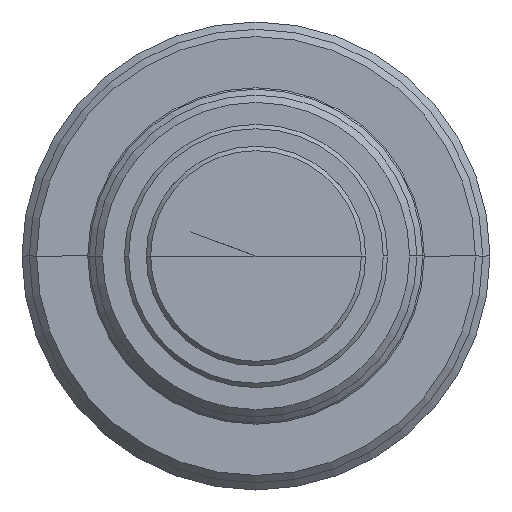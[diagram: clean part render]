
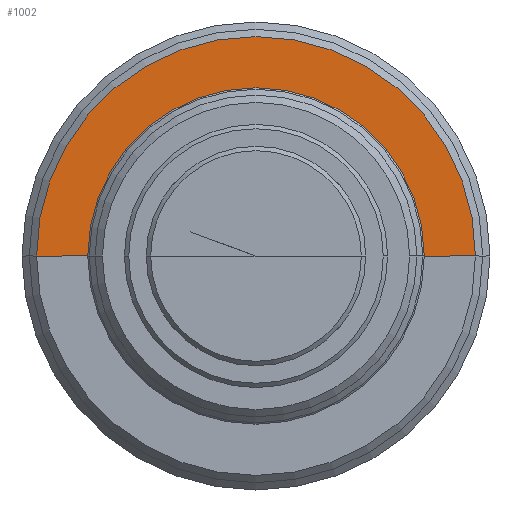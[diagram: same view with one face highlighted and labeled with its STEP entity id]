
A CAD part, left-side view. The second image highlights one B-rep face of the part: STEP entity #1002.
In plain terms, the highlighted conical face has half-angle 90 degrees and reference radius 15 mm.
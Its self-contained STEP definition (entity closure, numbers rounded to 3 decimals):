
#25 = CARTESIAN_POINT ( 'NONE',  ( -31.5, -15., 0. ) ) ;
#47 = LINE ( 'NONE', #1834, #197 ) ;
#56 = EDGE_CURVE ( 'NONE', #79, #978, #1442, .T. ) ;
#71 = CARTESIAN_POINT ( 'NONE',  ( -31.5, -15., 0. ) ) ;
#79 = VERTEX_POINT ( 'NONE', #1349 ) ;
#86 = VERTEX_POINT ( 'NONE', #802 ) ;
#110 = AXIS2_PLACEMENT_3D ( 'NONE', #1201, #365, #189 ) ;
#173 = DIRECTION ( 'NONE',  ( 0., 1., 0. ) ) ;
#189 = DIRECTION ( 'NONE',  ( 0., -1., 0. ) ) ;
#197 = VECTOR ( 'NONE', #859, 1000. ) ;
#208 = EDGE_CURVE ( 'NONE', #978, #890, #1275, .T. ) ;
#225 = CIRCLE ( 'NONE', #110, 11.5 ) ;
#262 = DIRECTION ( 'NONE',  ( -1., 0., 0. ) ) ;
#293 = FACE_OUTER_BOUND ( 'NONE', #816, .T. ) ;
#365 = DIRECTION ( 'NONE',  ( -1., 0., 0. ) ) ;
#419 = ORIENTED_EDGE ( 'NONE', *, *, #56, .T. ) ;
#603 = EDGE_CURVE ( 'NONE', #86, #890, #47, .T. ) ;
#606 = CARTESIAN_POINT ( 'NONE',  ( -31.5, 0., 0. ) ) ;
#684 = ORIENTED_EDGE ( 'NONE', *, *, #208, .T. ) ;
#802 = CARTESIAN_POINT ( 'NONE',  ( -31.5, 11.5, 0. ) ) ;
#816 = EDGE_LOOP ( 'NONE', ( #1342, #419, #684, #1263 ) ) ;
#859 = DIRECTION ( 'NONE',  ( 0., 1., 0. ) ) ;
#890 = VERTEX_POINT ( 'NONE', #1417 ) ;
#961 = DIRECTION ( 'NONE',  ( 0., -1., 0. ) ) ;
#978 = VERTEX_POINT ( 'NONE', #25 ) ;
#1002 = ADVANCED_FACE ( 'NONE', ( #293 ), #1737, .T. ) ;
#1047 = DIRECTION ( 'NONE',  ( 1., 0., 0. ) ) ;
#1053 = AXIS2_PLACEMENT_3D ( 'NONE', #606, #1047, #173 ) ;
#1098 = EDGE_CURVE ( 'NONE', #79, #86, #225, .T. ) ;
#1120 = VECTOR ( 'NONE', #961, 1000. ) ;
#1201 = CARTESIAN_POINT ( 'NONE',  ( -31.5, 0., 0. ) ) ;
#1263 = ORIENTED_EDGE ( 'NONE', *, *, #603, .F. ) ;
#1275 = CIRCLE ( 'NONE', #1582, 15. ) ;
#1342 = ORIENTED_EDGE ( 'NONE', *, *, #1098, .F. ) ;
#1349 = CARTESIAN_POINT ( 'NONE',  ( -31.5, -11.5, 0. ) ) ;
#1413 = DIRECTION ( 'NONE',  ( 0., -1., 0. ) ) ;
#1417 = CARTESIAN_POINT ( 'NONE',  ( -31.5, 15., 0. ) ) ;
#1442 = LINE ( 'NONE', #71, #1120 ) ;
#1565 = CARTESIAN_POINT ( 'NONE',  ( -31.5, 0., 0. ) ) ;
#1582 = AXIS2_PLACEMENT_3D ( 'NONE', #1565, #262, #1413 ) ;
#1737 = CONICAL_SURFACE ( 'NONE', #1053, 15., 1.571 ) ;
#1834 = CARTESIAN_POINT ( 'NONE',  ( -31.5, 15., 0. ) ) ;
